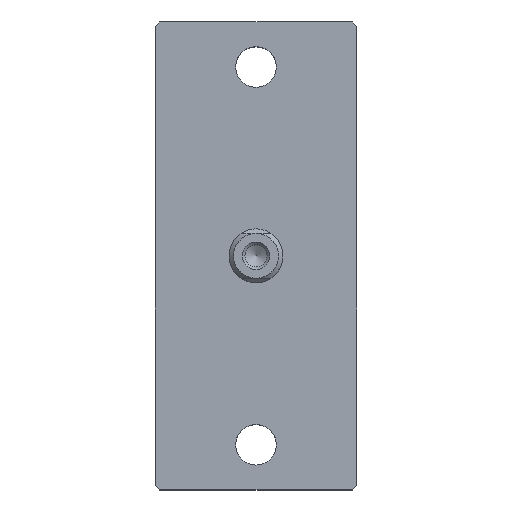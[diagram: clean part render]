
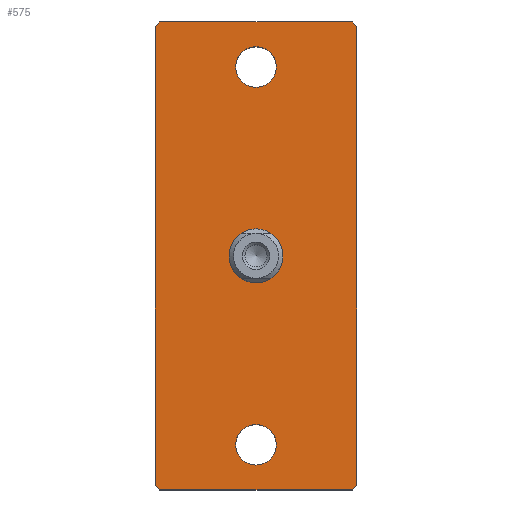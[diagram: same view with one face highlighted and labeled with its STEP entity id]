
A CAD part, top view. The second image highlights one B-rep face of the part: STEP entity #575.
In plain terms, the highlighted planar face has unit normal (0, 0, 1).
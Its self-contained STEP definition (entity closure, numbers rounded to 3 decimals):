
#77=CARTESIAN_POINT('',(10.417,25.5,12.));
#78=VERTEX_POINT('',#77);
#87=CARTESIAN_POINT('',(10.417,-25.5,12.));
#88=VERTEX_POINT('',#87);
#89=CARTESIAN_POINT('',(10.417,25.5,12.));
#90=DIRECTION('',(0.0,-1.0,0.0));
#91=VECTOR('',#90,51.);
#92=LINE('',#89,#91);
#93=EDGE_CURVE('',#78,#88,#92,.T.);
#355=CARTESIAN_POINT('',(-11.983,25.5,12.));
#356=VERTEX_POINT('',#355);
#357=CARTESIAN_POINT('',(-11.483,26.0,12.));
#358=VERTEX_POINT('',#357);
#359=CARTESIAN_POINT('',(-11.983,25.5,12.));
#360=DIRECTION('',(0.707,0.707,0.0));
#361=VECTOR('',#360,0.707);
#362=LINE('',#359,#361);
#363=EDGE_CURVE('',#356,#358,#362,.T.);
#478=CARTESIAN_POINT('',(9.917,26.0,12.));
#479=VERTEX_POINT('',#478);
#480=CARTESIAN_POINT('',(-11.483,26.0,12.));
#481=DIRECTION('',(1.0,0.0,0.0));
#482=VECTOR('',#481,21.4);
#483=LINE('',#480,#482);
#484=EDGE_CURVE('',#358,#479,#483,.T.);
#496=CARTESIAN_POINT('',(-0.783,0.,12.));
#497=DIRECTION('',(0.0,0.0,1.0));
#498=DIRECTION('',(1.0,0.0,0.0));
#499=AXIS2_PLACEMENT_3D('',#496,#497,#498);
#500=PLANE('',#499);
#501=ORIENTED_EDGE('',*,*,#363,.F.);
#502=CARTESIAN_POINT('',(-11.983,-25.5,12.));
#503=VERTEX_POINT('',#502);
#504=CARTESIAN_POINT('',(-11.983,-25.5,12.));
#505=DIRECTION('',(0.0,1.0,0.0));
#506=VECTOR('',#505,51.);
#507=LINE('',#504,#506);
#508=EDGE_CURVE('',#503,#356,#507,.T.);
#509=ORIENTED_EDGE('',*,*,#508,.F.);
#510=CARTESIAN_POINT('',(-11.483,-26.0,12.));
#511=VERTEX_POINT('',#510);
#512=CARTESIAN_POINT('',(-11.483,-26.0,12.));
#513=DIRECTION('',(-0.707,0.707,0.0));
#514=VECTOR('',#513,0.707);
#515=LINE('',#512,#514);
#516=EDGE_CURVE('',#511,#503,#515,.T.);
#517=ORIENTED_EDGE('',*,*,#516,.F.);
#518=CARTESIAN_POINT('',(9.917,-26.0,12.));
#519=VERTEX_POINT('',#518);
#520=CARTESIAN_POINT('',(9.917,-26.0,12.));
#521=DIRECTION('',(-1.0,0.0,0.0));
#522=VECTOR('',#521,21.4);
#523=LINE('',#520,#522);
#524=EDGE_CURVE('',#519,#511,#523,.T.);
#525=ORIENTED_EDGE('',*,*,#524,.F.);
#526=CARTESIAN_POINT('',(10.417,-25.5,12.));
#527=DIRECTION('',(-0.707,-0.707,0.0));
#528=VECTOR('',#527,0.707);
#529=LINE('',#526,#528);
#530=EDGE_CURVE('',#88,#519,#529,.T.);
#531=ORIENTED_EDGE('',*,*,#530,.F.);
#532=ORIENTED_EDGE('',*,*,#93,.F.);
#533=CARTESIAN_POINT('',(9.917,26.0,12.));
#534=DIRECTION('',(0.707,-0.707,0.0));
#535=VECTOR('',#534,0.707);
#536=LINE('',#533,#535);
#537=EDGE_CURVE('',#479,#78,#536,.T.);
#538=ORIENTED_EDGE('',*,*,#537,.F.);
#539=ORIENTED_EDGE('',*,*,#484,.F.);
#540=EDGE_LOOP('',(#501,#509,#517,#525,#531,#532,#538,#539));
#541=FACE_OUTER_BOUND('',#540,.T.);
#542=CARTESIAN_POINT('',(1.467,21.0,12.));
#543=VERTEX_POINT('',#542);
#544=CARTESIAN_POINT('',(-0.783,21.0,12.));
#545=DIRECTION('',(0.0,0.0,-1.0));
#546=DIRECTION('',(-1.0,0.0,0.0));
#547=AXIS2_PLACEMENT_3D('',#544,#545,#546);
#548=CIRCLE('',#547,2.25);
#549=EDGE_CURVE('',#543,#543,#548,.T.);
#550=ORIENTED_EDGE('',*,*,#549,.T.);
#551=EDGE_LOOP('',(#550));
#552=FACE_BOUND('',#551,.T.);
#553=CARTESIAN_POINT('',(1.467,-21.0,12.));
#554=VERTEX_POINT('',#553);
#555=CARTESIAN_POINT('',(-0.783,-21.0,12.));
#556=DIRECTION('',(0.0,0.0,-1.0));
#557=DIRECTION('',(-1.0,0.0,0.0));
#558=AXIS2_PLACEMENT_3D('',#555,#556,#557);
#559=CIRCLE('',#558,2.25);
#560=EDGE_CURVE('',#554,#554,#559,.T.);
#561=ORIENTED_EDGE('',*,*,#560,.T.);
#562=EDGE_LOOP('',(#561));
#563=FACE_BOUND('',#562,.T.);
#564=CARTESIAN_POINT('',(-0.783,3.,12.));
#565=VERTEX_POINT('',#564);
#566=CARTESIAN_POINT('',(-0.783,0.0,12.));
#567=DIRECTION('',(0.0,0.0,-1.0));
#568=DIRECTION('',(0.0,1.0,0.0));
#569=AXIS2_PLACEMENT_3D('',#566,#567,#568);
#570=CIRCLE('',#569,3.);
#571=EDGE_CURVE('',#565,#565,#570,.T.);
#572=ORIENTED_EDGE('',*,*,#571,.T.);
#573=EDGE_LOOP('',(#572));
#574=FACE_BOUND('',#573,.T.);
#575=ADVANCED_FACE('',(#541,#552,#563,#574),#500,.T.);
